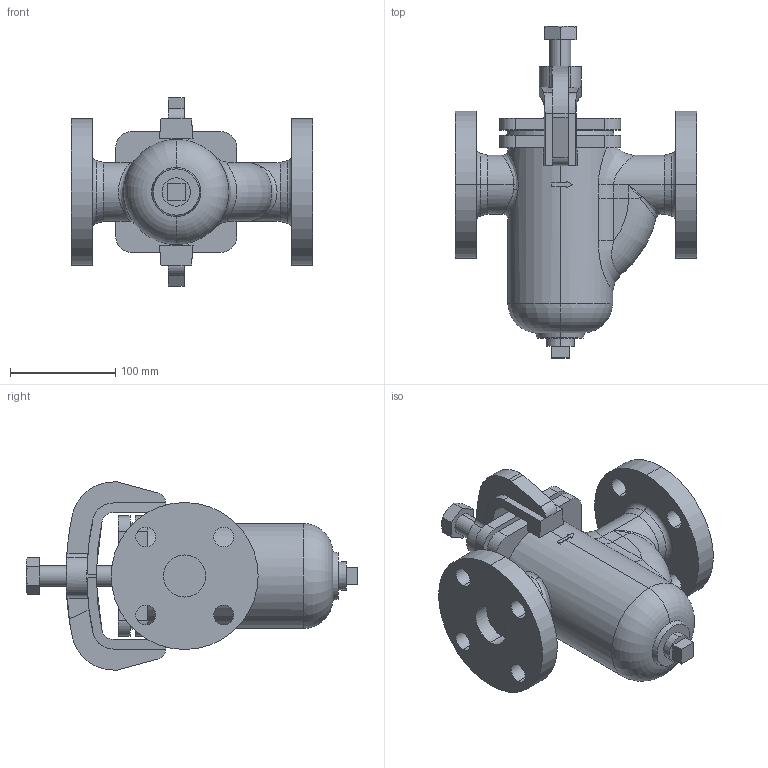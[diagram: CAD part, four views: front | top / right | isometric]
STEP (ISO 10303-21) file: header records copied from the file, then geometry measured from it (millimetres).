
FILE_DESCRIPTION (( 'STEP AP203' ), '1' );
FILE_NAME ('SU-20S 40A.STEP', '2025-12-15T02:25:03', ( '' ), ( '' ), 'SwSTEP 2.0', 'SolidWorks 2024', '' );
FILE_SCHEMA (( 'CONFIG_CONTROL_DESIGN' ));
Length unit declared in the file: millimetre
Products named in the file (4): SU-20S 40A; SU-20S Bolt 32-65A; SU-20S Body-P 40A; SU-20S Arm 32-50A
Assembly tree (3 placements, depth 2):
  SU-20S 40A
    SU-20S Body-P 40A
    SU-20S Arm 32-50A
    SU-20S Bolt 32-65A
Bounding box: 230 x 316 x 179 mm (x, y, z)
Volume: 2764798.6 mm3; surface area: 241080.8 mm2
Topology: 3 solids, 3 shells, 194 faces, 492 edges, 315 vertices
Faces by surface type: plane 79, cylinder 76, cone 19, bspline 7, torus 7, sphere 6
Entity records: 8224 total; most frequent: CARTESIAN_POINT 3148, DIRECTION 982, ORIENTED_EDGE 980, EDGE_CURVE 490, AXIS2_PLACEMENT_3D 372, VERTEX_POINT 315, LINE 238, VECTOR 238
